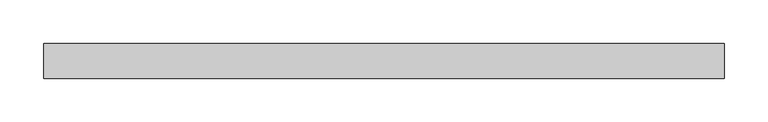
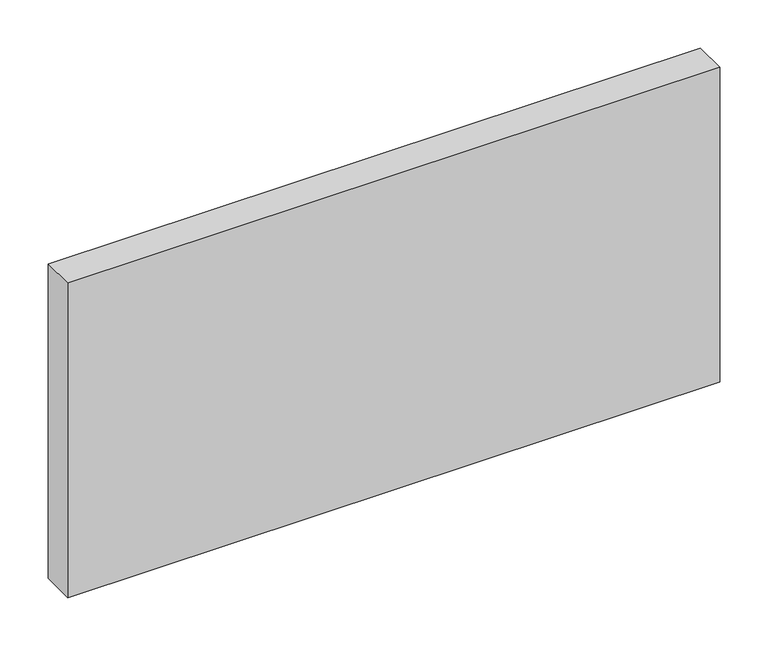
"""IFC4 building model written with IfcOpenShell, lengths in millimetres: plate geometry, Panneau système vide : Epaiss. 4cm."""

from ifc_helpers import new_model, si_unit, origin, origin_with_axes, place, context, project, spatial, polyline, outline, extrude, source, transform, mapped, element, save


def plate_de89d398(model_context):
    return source(origin(), model_context, "Body", "SweptSolid", [
        extrude(outline(polyline([(390.15, -20.0), (-390.15, -20.0), (-390.15, 20.0), (390.15, 20.0), (390.15, -20.0)])), origin_with_axes(), (0.0, 0.0, 1.0), 398.0),
    ])


if __name__ == "__main__":
    model = new_model("IFC4")
    model_context = context("Model", 3, world=origin())
    ifc_project = project(units=[si_unit("LENGTHUNIT", "METRE", prefix="MILLI")], contexts=[model_context])
    site = spatial("IfcSite", under=ifc_project)
    building = spatial("IfcBuilding", under=site)
    placement = place(None, origin())
    plate_shape = plate_de89d398(model_context)
    element("IfcPlate", 1, ObjectType="Panneau système vide : Epaiss. 4cm", at=placement, inside=building, context=model_context, shape_type="MappedRepresentation", body=[
        mapped(plate_shape, transform((0.0, 0.0, 0.0), x_axis=(1.0, 0.0, 0.0), y_axis=(0.0, 1.0, 0.0), z_axis=(0.0, 0.0, 1.0))),
    ])
    save(model, "model.ifc")
